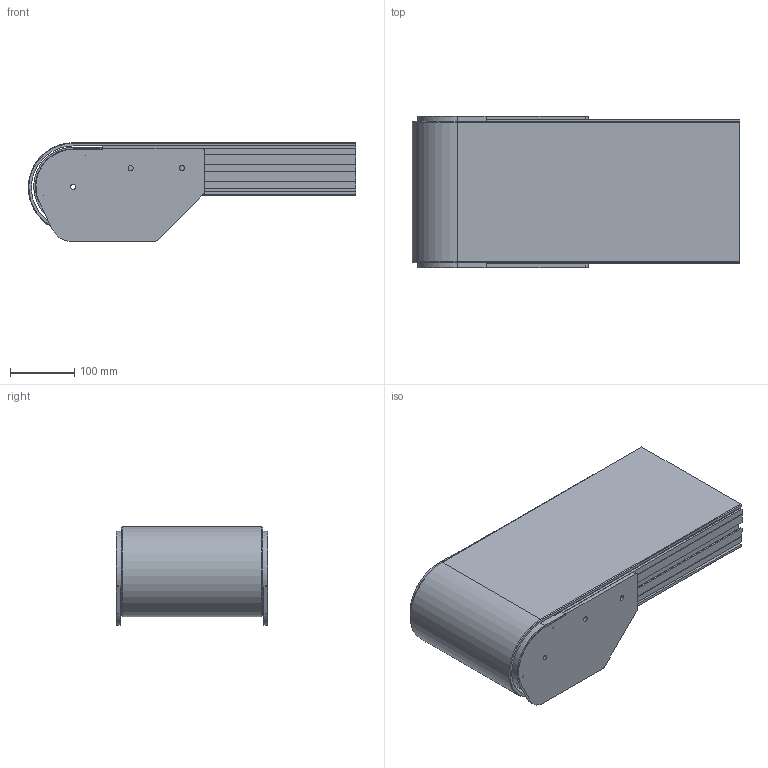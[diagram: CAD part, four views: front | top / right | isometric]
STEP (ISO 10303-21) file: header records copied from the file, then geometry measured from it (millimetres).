
FILE_DESCRIPTION(/* description */ ('IDLER UNIT SERIE 220'),/* implementation_level */ '2;1');
FILE_NAME(/* name */ '\\carryline.intra\privat\users\mathias\Desktop\Tillfälliga filer\220-4005.stp',/* time_stamp */ '2018-11-29T12:42:10+01:00',/* author */ ('ML'),/* organization */ ('CARRYLINE'),/* preprocessor_version */ 'ST-DEVELOPER v17',/* originating_system */ 'Autodesk Inventor 2018',/* authorisation */ '');
FILE_SCHEMA (('AUTOMOTIVE_DESIGN { 1 0 10303 214 3 1 1 }'));
Length unit declared in the file: millimetre
Products named in the file (7): 220-4005; Serie 220 Vändände; 220-1000+220-2000-01; 900-3055R; 900-3055L; 900-2115R; 900-2115L
Assembly tree (6 placements, depth 3):
  220-4005
    Serie 220 Vändände
      220-1000+220-2000-01
      900-3055R
      900-3055L
      900-2115R
      900-2115L
Bounding box: 509.87 x 236 x 153.5 mm (x, y, z)
Volume: 7961166.3 mm3; surface area: 710431.3 mm2
Topology: 5 solids, 5 shells, 195 faces, 555 edges, 368 vertices
Faces by surface type: plane 132, cylinder 53, cone 10
Full cylindrical faces by diameter (mm): 4 x4, 5 x4, 8 x6, 10 x4, 45 x2
Entity records: 6686 total; most frequent: CARTESIAN_POINT 1127, ORIENTED_EDGE 1102, DIRECTION 1101, EDGE_CURVE 551, LINE 417, VECTOR 417, VERTEX_POINT 368, AXIS2_PLACEMENT_3D 342
